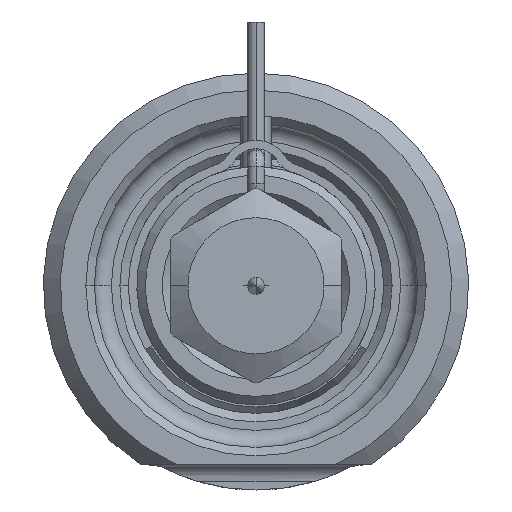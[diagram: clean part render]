
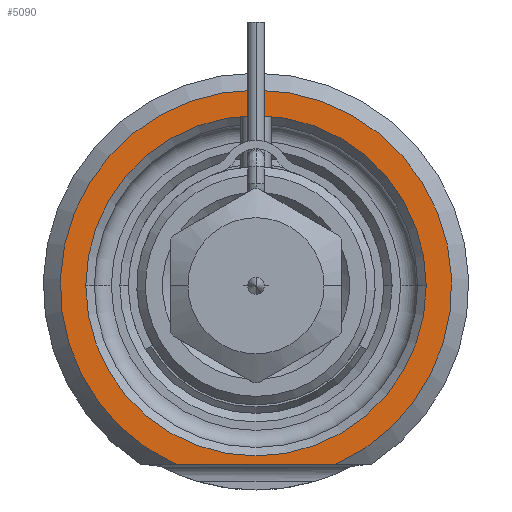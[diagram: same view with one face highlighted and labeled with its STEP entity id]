
A CAD part, front view. The second image highlights one B-rep face of the part: STEP entity #5090.
In plain terms, the highlighted planar face has unit normal (0, -1, 0).
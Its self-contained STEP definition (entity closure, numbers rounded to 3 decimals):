
#1270=CARTESIAN_POINT('',(0.,0.,0.));
#1271=DIRECTION('',(0.,-1.,0.));
#1272=DIRECTION('',(0.408,0.,-0.913));
#1273=AXIS2_PLACEMENT_3D('',#1270,#1271,#1272);
#1294=DIRECTION('',(1.,0.,0.));
#1295=VECTOR('',#1294,9.381);
#1296=CARTESIAN_POINT('',(-4.69,0.,-10.5));
#1297=LINE('',#1296,#1295);
#1298=CARTESIAN_POINT('',(0.,0.,0.));
#1299=DIRECTION('',(0.,1.,0.));
#1300=DIRECTION('',(-1.,0.,0.));
#1301=AXIS2_PLACEMENT_3D('',#1298,#1299,#1300);
#1303=CARTESIAN_POINT('',(0.,0.,0.));
#1304=DIRECTION('',(0.,1.,0.));
#1305=DIRECTION('',(1.,0.,0.));
#1306=AXIS2_PLACEMENT_3D('',#1303,#1304,#1305);
#3218=CARTESIAN_POINT('',(-10.,0.,0.));
#3219=CARTESIAN_POINT('',(10.,0.,0.));
#3220=VERTEX_POINT('',#3218);
#3221=VERTEX_POINT('',#3219);
#3262=CARTESIAN_POINT('',(-4.69,0.,-10.5));
#3263=CARTESIAN_POINT('',(4.69,0.,-10.5));
#3264=VERTEX_POINT('',#3262);
#3265=VERTEX_POINT('',#3263);
#5075=CARTESIAN_POINT('',(0.,0.,0.));
#5076=DIRECTION('',(0.,-1.,0.));
#5077=DIRECTION('',(1.,0.,0.));
#5078=AXIS2_PLACEMENT_3D('',#5075,#5076,#5077);
#5079=PLANE('',#5078);
#5080=ORIENTED_EDGE('',*,*,#5010,.F.);
#5081=ORIENTED_EDGE('',*,*,#5067,.F.);
#5082=EDGE_LOOP('',(#5080,#5081));
#5083=FACE_OUTER_BOUND('',#5082,.F.);
#5085=ORIENTED_EDGE('',*,*,#5084,.F.);
#5087=ORIENTED_EDGE('',*,*,#5086,.F.);
#5088=EDGE_LOOP('',(#5085,#5087));
#5089=FACE_BOUND('',#5088,.F.);
#5090=ADVANCED_FACE('',(#5083,#5089),#5079,.T.);
#1274=CIRCLE('',#1273,11.5);
#1302=CIRCLE('',#1301,10.);
#1307=CIRCLE('',#1306,10.);
#5010=EDGE_CURVE('',#3264,#3265,#1297,.T.);
#5067=EDGE_CURVE('',#3265,#3264,#1274,.T.);
#5084=EDGE_CURVE('',#3220,#3221,#1302,.T.);
#5086=EDGE_CURVE('',#3221,#3220,#1307,.T.);
